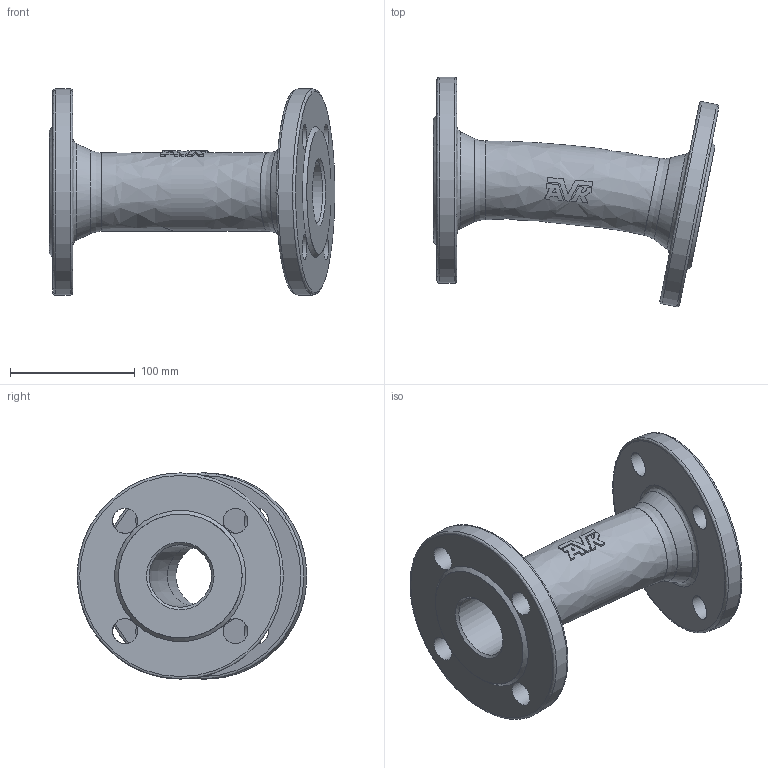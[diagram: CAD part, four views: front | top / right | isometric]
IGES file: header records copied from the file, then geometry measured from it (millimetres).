
Start section: SolidWorks IGES file using analytic representation for surfaces
Global section: file name: \\avksan2\techshare\PBM outline export from Enovia\O_712_0110_DN050_REV02.igs; native system: SolidWorks 2022; preprocessor: SolidWorks 2022; author: pbm; date: 240815.093215; units: millimetre
Bounding box: 228.71 x 183.74 x 165 mm (x, y, z)
Surface area: 161327.8 mm2 (no closed solid volume)
Topology: 0 solids, 0 shells, 112 faces, 1179 edges, 1143 vertices
Faces by surface type: revolution 69, bspline 43
